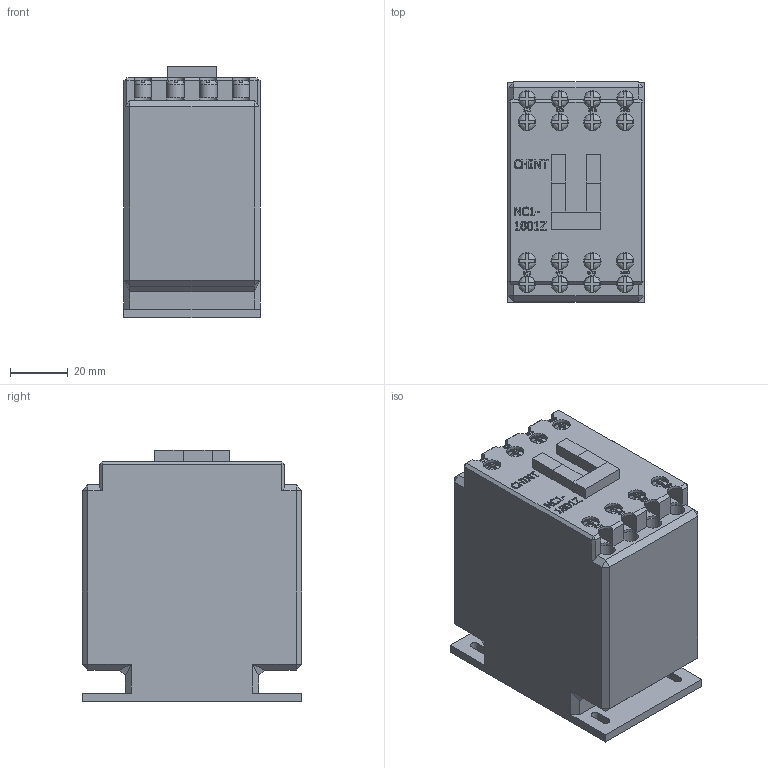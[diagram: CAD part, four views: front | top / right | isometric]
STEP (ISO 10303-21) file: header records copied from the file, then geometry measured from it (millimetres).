
FILE_DESCRIPTION(/* description */ (''),/* implementation_level */ '2;1');
FILE_NAME(/* name */ 'D:\CHINT2\NC1\NC1-1801Z 230В 50.stp',/* time_stamp */ '2017-11-12T20:15:51+03:00',/* author */ ('RSagdiev'),/* organization */ (''),/* preprocessor_version */ 'ST-DEVELOPER v16.5',/* originating_system */ 'Autodesk Inventor 2017',/* authorisation */ '');
FILE_SCHEMA (('AUTOMOTIVE_DESIGN { 1 0 10303 214 3 1 1 }'));
Length unit declared in the file: millimetre
Products named in the file (1): NC1-1801 230В 50
Bounding box: 47 x 76 x 87 mm (x, y, z)
Volume: 276342.2 mm3; surface area: 34968.8 mm2
Topology: 19 solids, 19 shells, 1070 faces, 2810 edges, 1836 vertices
Faces by surface type: plane 785, bspline 237, cylinder 48
Full cylindrical faces by diameter (mm): 5.8 x8, 6 x16
Entity records: 35349 total; most frequent: CARTESIAN_POINT 10552, ORIENTED_EDGE 5572, DIRECTION 4168, EDGE_CURVE 2786, LINE 1912, VECTOR 1912, VERTEX_POINT 1836, EDGE_LOOP 1176
